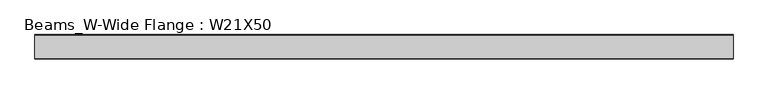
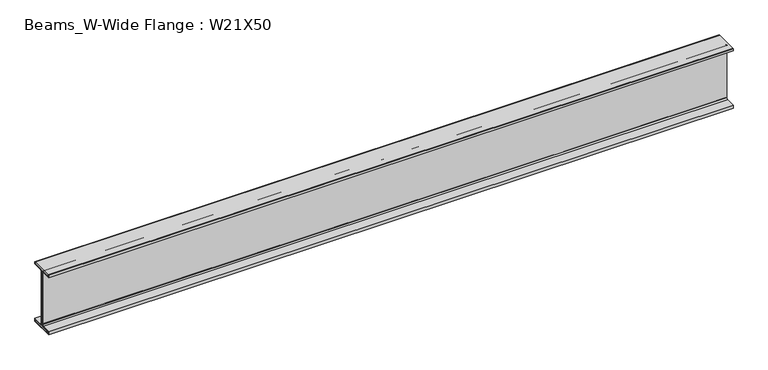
"""IFC4 building model written with IfcOpenShell, lengths in millimetres: beam geometry, Beams_W-Wide Flange : W21X50."""

from ifc_helpers import new_model, si_unit, point, frame, frame_2d, origin, place, context, project, spatial, polyline, circle_curve, trimmed, segment, composite_curve, outline, extrude, source, transform, mapped, element, save


def beams_w_wide_flange_w21x50_bdfe6965(model_context):
    return source(origin(), model_context, "Body", "SweptSolid", [
        extrude(outline(composite_curve([segment(polyline([(95.25, -249.443875), (95.25, -263.921875), (-95.25, -263.921875), (-95.25, -249.443875), (-21.7805, -249.443875)]), True, "CONTINUOUS"), segment(trimmed(circle_curve(frame_2d((-21.7805, -232.171875)), 17.272), [point((-21.7805, -249.443875))], [point((-4.5085, -232.171875))], True, "CARTESIAN"), True, "CONTINUOUS"), segment(polyline([(-4.5085, -232.171875), (-4.5085, 232.171875)]), True, "CONTINUOUS"), segment(trimmed(circle_curve(frame_2d((-21.7805, 232.171875)), 17.272), [point((-4.5085, 232.171875))], [point((-21.7805, 249.443875))], True, "CARTESIAN"), True, "CONTINUOUS"), segment(polyline([(-21.7805, 249.443875), (-95.25, 249.443875), (-95.25, 263.921875), (95.25, 263.921875), (95.25, 249.443875), (21.7805, 249.443875)]), True, "CONTINUOUS"), segment(trimmed(circle_curve(frame_2d((21.7805, 232.171875)), 17.272), [point((21.7805, 249.443875))], [point((4.5085, 232.171875))], True, "CARTESIAN"), True, "CONTINUOUS"), segment(polyline([(4.5085, 232.171875), (4.5085, -232.171875)]), True, "CONTINUOUS"), segment(trimmed(circle_curve(frame_2d((21.7805, -232.171875)), 17.272), [point((4.5085, -232.171875))], [point((21.7805, -249.443875))], True, "CARTESIAN"), True, "CONTINUOUS"), segment(polyline([(21.7805, -249.443875), (95.25, -249.443875)]), True, "CONTINUOUS")], self_intersect=False)), frame((-3061.49375, 0.0, 0.0), z_axis=(1.0, 0.0, 0.0), x_axis=(0.0, 1.0, 0.0)), (0.0, 0.0, 1.0), 5799.1375),
        extrude(outline(composite_curve([segment(polyline([(101.6, 243.093875), (20.2902344, 243.093875)]), True, "CONTINUOUS"), segment(trimmed(circle_curve(frame_2d((20.2902344, 233.6621406)), 9.4317344), [point((20.2902344, 243.093875))], [point((10.8585, 233.6621406))], True, "CARTESIAN"), True, "CONTINUOUS"), segment(polyline([(10.8585, 233.6621406), (10.8585, -232.171875)]), True, "CONTINUOUS"), segment(trimmed(circle_curve(frame_2d((21.7805, -232.171875)), 10.922), [point((10.8585, -232.171875))], [point((21.7805, -243.093875))], True, "CARTESIAN"), True, "CONTINUOUS"), segment(polyline([(21.7805, -243.093875), (101.6, -243.093875), (101.6, -270.271875), (-101.6, -270.271875), (-101.6, -243.093875), (-21.7805, -243.093875)]), True, "CONTINUOUS"), segment(trimmed(circle_curve(frame_2d((-21.7805, -232.171875)), 10.922), [point((-21.7805, -243.093875))], [point((-10.8585, -232.171875))], True, "CARTESIAN"), True, "CONTINUOUS"), segment(polyline([(-10.8585, -232.171875), (-10.8585, 232.171875)]), True, "CONTINUOUS"), segment(trimmed(circle_curve(frame_2d((-21.7805, 232.171875)), 10.922), [point((-10.8585, 232.171875))], [point((-21.7805, 243.093875))], True, "CARTESIAN"), True, "CONTINUOUS"), segment(polyline([(-21.7805, 243.093875), (-101.6, 243.093875), (-101.6, 263.921875), (-95.25, 263.921875), (-95.25, 249.443875), (-21.7805, 249.443875)]), True, "CONTINUOUS"), segment(trimmed(circle_curve(frame_2d((-21.7805, 232.171875)), 17.272), [point((-21.7805, 249.443875))], [point((-4.5085, 232.171875))], False, "CARTESIAN"), True, "CONTINUOUS"), segment(polyline([(-4.5085, 232.171875), (-4.5085, -232.171875)]), True, "CONTINUOUS"), segment(trimmed(circle_curve(frame_2d((-21.7805, -232.171875)), 17.272), [point((-4.5085, -232.171875))], [point((-21.7805, -249.443875))], False, "CARTESIAN"), True, "CONTINUOUS"), segment(polyline([(-21.7805, -249.443875), (-95.25, -249.443875), (-95.25, -263.921875), (95.25, -263.921875), (95.25, -249.443875), (21.7805, -249.443875)]), True, "CONTINUOUS"), segment(trimmed(circle_curve(frame_2d((21.7805, -232.171875)), 17.272), [point((21.7805, -249.443875))], [point((4.5085, -232.171875))], False, "CARTESIAN"), True, "CONTINUOUS"), segment(polyline([(4.5085, -232.171875), (4.5085, 232.171875)]), True, "CONTINUOUS"), segment(trimmed(circle_curve(frame_2d((21.7805, 232.171875)), 17.272), [point((4.5085, 232.171875))], [point((21.7805, 249.443875))], False, "CARTESIAN"), True, "CONTINUOUS"), segment(polyline([(21.7805, 249.443875), (95.25, 249.443875), (95.25, 263.921875), (101.6, 263.921875), (101.6, 243.093875)]), True, "CONTINUOUS")], self_intersect=False)), frame((-3061.49375, 0.0, 0.0), z_axis=(1.0, 0.0, 0.0), x_axis=(0.0, 1.0, 0.0)), (0.0, 0.0, 1.0), 5799.1375),
    ])


if __name__ == "__main__":
    model = new_model("IFC4")
    model_context = context("Model", 3, world=origin())
    ifc_project = project(units=[si_unit("LENGTHUNIT", "METRE", prefix="MILLI")], contexts=[model_context])
    site = spatial("IfcSite", under=ifc_project)
    building = spatial("IfcBuilding", under=site)
    placement = place(None, origin())
    beams_w_wide_flange_w21x50_shape = beams_w_wide_flange_w21x50_bdfe6965(model_context)
    element("IfcBeam", 1, ObjectType="Beams_W-Wide Flange : W21X50", at=placement, inside=building, context=model_context, shape_type="MappedRepresentation", body=[
        mapped(beams_w_wide_flange_w21x50_shape, transform((0.0, 0.0, 0.0), x_axis=(1.0, 0.0, 0.0), y_axis=(0.0, 1.0, 0.0), z_axis=(0.0, 0.0, 1.0))),
    ])
    save(model, "model.ifc")
